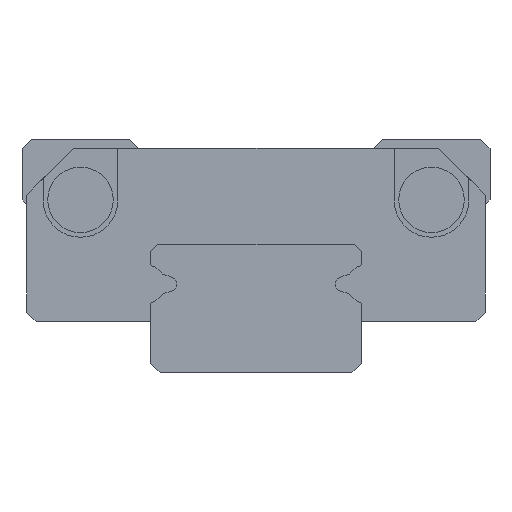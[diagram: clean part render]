
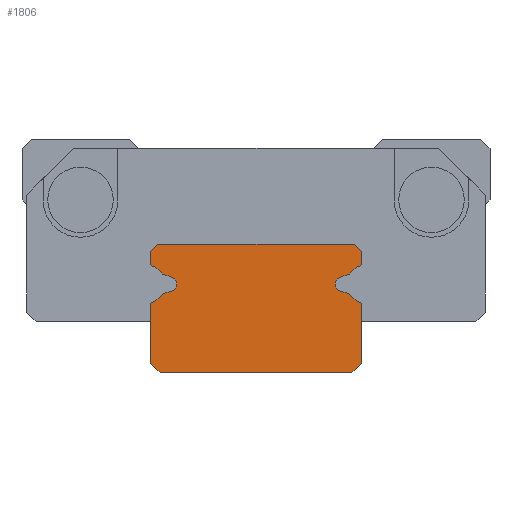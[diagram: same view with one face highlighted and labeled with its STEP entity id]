
A CAD part, left-side view. The second image highlights one B-rep face of the part: STEP entity #1806.
In plain terms, the highlighted planar face has unit normal (-1, 0, 0).
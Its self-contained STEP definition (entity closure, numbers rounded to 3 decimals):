
#978=CARTESIAN_POINT('',(0.0,4.5,0.4));
#979=VERTEX_POINT('',#978);
#986=CARTESIAN_POINT('',(0.0,4.5,2.924));
#987=VERTEX_POINT('',#986);
#988=CARTESIAN_POINT('',(0.0,4.5,0.4));
#989=DIRECTION('',(0.0,0.0,1.0));
#990=VECTOR('',#989,2.524);
#991=LINE('',#988,#990);
#992=EDGE_CURVE('',#979,#987,#991,.T.);
#1016=CARTESIAN_POINT('',(0.0,4.1,0.0));
#1017=VERTEX_POINT('',#1016);
#1024=CARTESIAN_POINT('',(0.0,4.1,0.0));
#1025=DIRECTION('',(0.0,0.707,0.707));
#1026=VECTOR('',#1025,0.566);
#1027=LINE('',#1024,#1026);
#1028=EDGE_CURVE('',#1017,#979,#1027,.T.);
#1047=CARTESIAN_POINT('',(0.0,-4.1,0.0));
#1048=VERTEX_POINT('',#1047);
#1055=CARTESIAN_POINT('',(0.0,-4.1,0.0));
#1056=DIRECTION('',(0.0,1.0,0.0));
#1057=VECTOR('',#1056,8.2);
#1058=LINE('',#1055,#1057);
#1059=EDGE_CURVE('',#1048,#1017,#1058,.T.);
#1102=CARTESIAN_POINT('',(0.0,-4.5,0.4));
#1103=VERTEX_POINT('',#1102);
#1110=CARTESIAN_POINT('',(0.0,-4.5,0.4));
#1111=DIRECTION('',(0.0,0.707,-0.707));
#1112=VECTOR('',#1111,0.566);
#1113=LINE('',#1110,#1112);
#1114=EDGE_CURVE('',#1103,#1048,#1113,.T.);
#1133=CARTESIAN_POINT('',(0.0,-4.5,2.924));
#1134=VERTEX_POINT('',#1133);
#1141=CARTESIAN_POINT('',(0.0,-4.5,2.924));
#1142=DIRECTION('',(0.0,0.,-1.));
#1143=VECTOR('',#1142,2.524);
#1144=LINE('',#1141,#1143);
#1145=EDGE_CURVE('',#1134,#1103,#1144,.T.);
#1165=CARTESIAN_POINT('',(0.0,-4.423,3.029));
#1166=VERTEX_POINT('',#1165);
#1173=CARTESIAN_POINT('',(0.0,-4.39,2.924));
#1174=DIRECTION('',(1.,0.0,0.0));
#1175=DIRECTION('',(0.0,-0.298,0.955));
#1176=AXIS2_PLACEMENT_3D('',#1173,#1174,#1175);
#1177=CIRCLE('',#1176,0.11);
#1178=EDGE_CURVE('',#1166,#1134,#1177,.T.);
#1198=CARTESIAN_POINT('',(0.0,-3.979,3.375));
#1199=VERTEX_POINT('',#1198);
#1206=CARTESIAN_POINT('',(0.0,-4.719,3.867));
#1207=DIRECTION('',(-1.0,0.0,0.0));
#1208=DIRECTION('',(0.0,-0.333,0.943));
#1209=AXIS2_PLACEMENT_3D('',#1206,#1207,#1208);
#1210=CIRCLE('',#1209,0.889);
#1211=EDGE_CURVE('',#1199,#1166,#1210,.T.);
#1230=CARTESIAN_POINT('',(0.0,-3.586,3.518));
#1231=VERTEX_POINT('',#1230);
#1238=CARTESIAN_POINT('',(0.0,-3.586,3.518));
#1239=DIRECTION('',(0.0,-0.94,-0.342));
#1240=VECTOR('',#1239,0.418);
#1241=LINE('',#1238,#1240);
#1242=EDGE_CURVE('',#1231,#1199,#1241,.T.);
#1262=CARTESIAN_POINT('',(0.0,-3.586,4.082));
#1263=VERTEX_POINT('',#1262);
#1270=CARTESIAN_POINT('',(0.0,-3.688,3.8));
#1271=DIRECTION('',(-1.,0.0,0.0));
#1272=DIRECTION('',(0.0,-0.342,0.94));
#1273=AXIS2_PLACEMENT_3D('',#1270,#1271,#1272);
#1274=CIRCLE('',#1273,0.3);
#1275=EDGE_CURVE('',#1263,#1231,#1274,.T.);
#1294=CARTESIAN_POINT('',(0.0,-3.979,4.225));
#1295=VERTEX_POINT('',#1294);
#1302=CARTESIAN_POINT('',(0.0,-3.979,4.225));
#1303=DIRECTION('',(0.0,0.94,-0.342));
#1304=VECTOR('',#1303,0.418);
#1305=LINE('',#1302,#1304);
#1306=EDGE_CURVE('',#1295,#1263,#1305,.T.);
#1326=CARTESIAN_POINT('',(0.0,-4.426,4.572));
#1327=VERTEX_POINT('',#1326);
#1334=CARTESIAN_POINT('',(0.0,-4.719,3.732));
#1335=DIRECTION('',(-1.0,0.0,0.0));
#1336=DIRECTION('',(0.0,-0.833,-0.554));
#1337=AXIS2_PLACEMENT_3D('',#1334,#1335,#1336);
#1338=CIRCLE('',#1337,0.889);
#1339=EDGE_CURVE('',#1327,#1295,#1338,.T.);
#1359=CARTESIAN_POINT('',(0.0,-4.5,4.676));
#1360=VERTEX_POINT('',#1359);
#1367=CARTESIAN_POINT('',(0.0,-4.39,4.676));
#1368=DIRECTION('',(1.0,0.0,0.0));
#1369=DIRECTION('',(0.0,-1.0,0.0));
#1370=AXIS2_PLACEMENT_3D('',#1367,#1368,#1369);
#1371=CIRCLE('',#1370,0.11);
#1372=EDGE_CURVE('',#1360,#1327,#1371,.T.);
#1391=CARTESIAN_POINT('',(0.0,-4.5,5.2));
#1392=VERTEX_POINT('',#1391);
#1399=CARTESIAN_POINT('',(0.0,-4.5,5.2));
#1400=DIRECTION('',(0.0,0.,-1.));
#1401=VECTOR('',#1400,0.524);
#1402=LINE('',#1399,#1401);
#1403=EDGE_CURVE('',#1392,#1360,#1402,.T.);
#1422=CARTESIAN_POINT('',(0.0,-4.2,5.5));
#1423=VERTEX_POINT('',#1422);
#1430=CARTESIAN_POINT('',(0.0,-4.2,5.5));
#1431=DIRECTION('',(0.0,-0.707,-0.707));
#1432=VECTOR('',#1431,0.424);
#1433=LINE('',#1430,#1432);
#1434=EDGE_CURVE('',#1423,#1392,#1433,.T.);
#1453=CARTESIAN_POINT('',(0.0,4.2,5.5));
#1454=VERTEX_POINT('',#1453);
#1461=CARTESIAN_POINT('',(0.0,4.2,5.5));
#1462=DIRECTION('',(0.0,-1.0,0.0));
#1463=VECTOR('',#1462,8.4);
#1464=LINE('',#1461,#1463);
#1465=EDGE_CURVE('',#1454,#1423,#1464,.T.);
#1508=CARTESIAN_POINT('',(0.0,4.5,5.2));
#1509=VERTEX_POINT('',#1508);
#1516=CARTESIAN_POINT('',(0.0,4.5,5.2));
#1517=DIRECTION('',(0.0,-0.707,0.707));
#1518=VECTOR('',#1517,0.424);
#1519=LINE('',#1516,#1518);
#1520=EDGE_CURVE('',#1509,#1454,#1519,.T.);
#1539=CARTESIAN_POINT('',(0.0,4.5,4.676));
#1540=VERTEX_POINT('',#1539);
#1547=CARTESIAN_POINT('',(0.0,4.5,4.676));
#1548=DIRECTION('',(0.0,0.0,1.0));
#1549=VECTOR('',#1548,0.524);
#1550=LINE('',#1547,#1549);
#1551=EDGE_CURVE('',#1540,#1509,#1550,.T.);
#1571=CARTESIAN_POINT('',(0.0,4.426,4.572));
#1572=VERTEX_POINT('',#1571);
#1579=CARTESIAN_POINT('',(0.0,4.39,4.676));
#1580=DIRECTION('',(1.,0.0,0.0));
#1581=DIRECTION('',(0.0,0.329,-0.944));
#1582=AXIS2_PLACEMENT_3D('',#1579,#1580,#1581);
#1583=CIRCLE('',#1582,0.11);
#1584=EDGE_CURVE('',#1572,#1540,#1583,.T.);
#1604=CARTESIAN_POINT('',(0.0,3.979,4.225));
#1605=VERTEX_POINT('',#1604);
#1612=CARTESIAN_POINT('',(0.0,4.719,3.732));
#1613=DIRECTION('',(-1.,0.0,0.0));
#1614=DIRECTION('',(0.0,0.329,-0.944));
#1615=AXIS2_PLACEMENT_3D('',#1612,#1613,#1614);
#1616=CIRCLE('',#1615,0.889);
#1617=EDGE_CURVE('',#1605,#1572,#1616,.T.);
#1636=CARTESIAN_POINT('',(0.0,3.586,4.082));
#1637=VERTEX_POINT('',#1636);
#1644=CARTESIAN_POINT('',(0.0,3.586,4.082));
#1645=DIRECTION('',(0.0,0.94,0.342));
#1646=VECTOR('',#1645,0.418);
#1647=LINE('',#1644,#1646);
#1648=EDGE_CURVE('',#1637,#1605,#1647,.T.);
#1668=CARTESIAN_POINT('',(0.0,3.586,3.518));
#1669=VERTEX_POINT('',#1668);
#1676=CARTESIAN_POINT('',(0.0,3.688,3.8));
#1677=DIRECTION('',(-1.0,0.0,0.0));
#1678=DIRECTION('',(0.0,0.342,-0.94));
#1679=AXIS2_PLACEMENT_3D('',#1676,#1677,#1678);
#1680=CIRCLE('',#1679,0.3);
#1681=EDGE_CURVE('',#1669,#1637,#1680,.T.);
#1700=CARTESIAN_POINT('',(0.0,3.979,3.375));
#1701=VERTEX_POINT('',#1700);
#1708=CARTESIAN_POINT('',(0.0,3.979,3.375));
#1709=DIRECTION('',(0.0,-0.94,0.342));
#1710=VECTOR('',#1709,0.418);
#1711=LINE('',#1708,#1710);
#1712=EDGE_CURVE('',#1701,#1669,#1711,.T.);
#1732=CARTESIAN_POINT('',(0.0,4.423,3.029));
#1733=VERTEX_POINT('',#1732);
#1740=CARTESIAN_POINT('',(0.0,4.719,3.867));
#1741=DIRECTION('',(-1.,0.0,0.0));
#1742=DIRECTION('',(0.0,0.833,0.554));
#1743=AXIS2_PLACEMENT_3D('',#1740,#1741,#1742);
#1744=CIRCLE('',#1743,0.889);
#1745=EDGE_CURVE('',#1733,#1701,#1744,.T.);
#1764=CARTESIAN_POINT('',(0.0,4.39,2.924));
#1765=DIRECTION('',(1.0,0.0,0.0));
#1766=DIRECTION('',(0.0,1.0,0.0));
#1767=AXIS2_PLACEMENT_3D('',#1764,#1765,#1766);
#1768=CIRCLE('',#1767,0.11);
#1769=EDGE_CURVE('',#987,#1733,#1768,.T.);
#1775=CARTESIAN_POINT('',(0.0,0.,2.846));
#1776=DIRECTION('',(1.0,0.0,0.0));
#1777=DIRECTION('',(0.0,0.0,-1.0));
#1778=AXIS2_PLACEMENT_3D('',#1775,#1776,#1777);
#1779=PLANE('',#1778);
#1780=ORIENTED_EDGE('',*,*,#1769,.F.);
#1781=ORIENTED_EDGE('',*,*,#992,.F.);
#1782=ORIENTED_EDGE('',*,*,#1028,.F.);
#1783=ORIENTED_EDGE('',*,*,#1059,.F.);
#1784=ORIENTED_EDGE('',*,*,#1114,.F.);
#1785=ORIENTED_EDGE('',*,*,#1145,.F.);
#1786=ORIENTED_EDGE('',*,*,#1178,.F.);
#1787=ORIENTED_EDGE('',*,*,#1211,.F.);
#1788=ORIENTED_EDGE('',*,*,#1242,.F.);
#1789=ORIENTED_EDGE('',*,*,#1275,.F.);
#1790=ORIENTED_EDGE('',*,*,#1306,.F.);
#1791=ORIENTED_EDGE('',*,*,#1339,.F.);
#1792=ORIENTED_EDGE('',*,*,#1372,.F.);
#1793=ORIENTED_EDGE('',*,*,#1403,.F.);
#1794=ORIENTED_EDGE('',*,*,#1434,.F.);
#1795=ORIENTED_EDGE('',*,*,#1465,.F.);
#1796=ORIENTED_EDGE('',*,*,#1520,.F.);
#1797=ORIENTED_EDGE('',*,*,#1551,.F.);
#1798=ORIENTED_EDGE('',*,*,#1584,.F.);
#1799=ORIENTED_EDGE('',*,*,#1617,.F.);
#1800=ORIENTED_EDGE('',*,*,#1648,.F.);
#1801=ORIENTED_EDGE('',*,*,#1681,.F.);
#1802=ORIENTED_EDGE('',*,*,#1712,.F.);
#1803=ORIENTED_EDGE('',*,*,#1745,.F.);
#1804=EDGE_LOOP('',(#1780,#1781,#1782,#1783,#1784,#1785,#1786,#1787,#1788,#1789,#1790,#1791,#1792,#1793,#1794,#1795,#1796,#1797,#1798,#1799,#1800,#1801,#1802,#1803));
#1805=FACE_OUTER_BOUND('',#1804,.T.);
#1806=ADVANCED_FACE('',(#1805),#1779,.F.);
